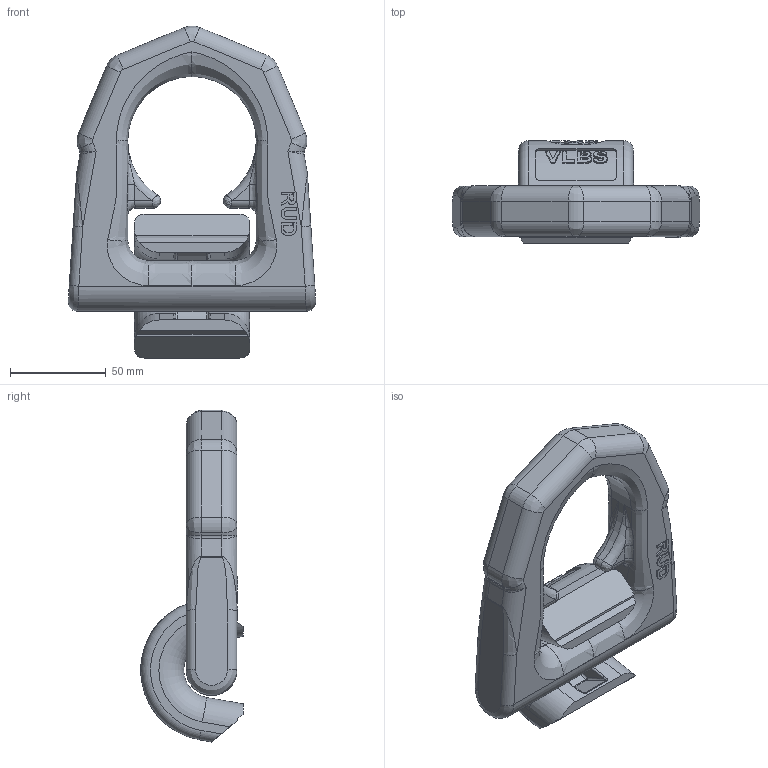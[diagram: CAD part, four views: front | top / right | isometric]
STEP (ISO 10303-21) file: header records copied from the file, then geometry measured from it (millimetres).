
FILE_DESCRIPTION((''),'2;1');
FILE_NAME('001-M32121-P4_ASM','2017-10-06T',('anja.joas'),(''),'PRO/ENGINEER BY PARAMETRIC TECHNOLOGY CORPORATION, 2011490','PRO/ENGINEER BY PARAMETRIC TECHNOLOGY CORPORATION, 2011490','');
FILE_SCHEMA(('CONFIG_CONTROL_DESIGN'));
Length unit declared in the file: millimetre
Products named in the file (3): 001-M32121-P2; 001-M34887-P01; 001-M32121-P4_ASM
Assembly tree (2 placements, depth 2):
  001-M32121-P4_ASM
    001-M32121-P2
    001-M34887-P01
Bounding box: 129.17 x 53.43 x 173.22 mm (x, y, z)
Volume: 367301.8 mm3; surface area: 57082.8 mm2
Topology: 2 solids, 2 shells, 427 faces, 1087 edges, 682 vertices
Faces by surface type: plane 161, cylinder 113, extrusion 73, bspline 60, torus 16, sphere 4
Entity records: 31095 total; most frequent: CARTESIAN_POINT 21403, ORIENTED_EDGE 2174, DIRECTION 1686, EDGE_CURVE 1087, VERTEX_POINT 682, VECTOR 584, AXIS2_PLACEMENT_3D 551, LINE 511
